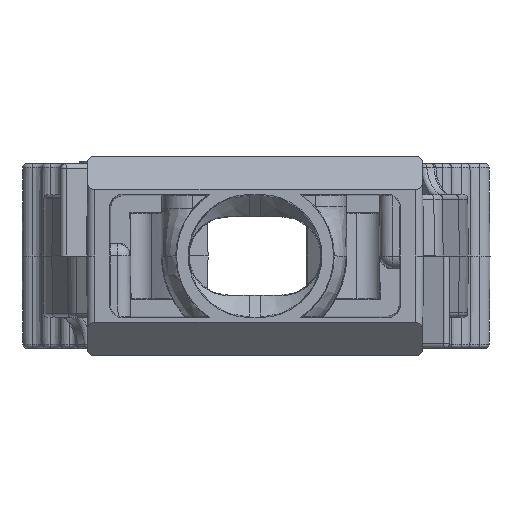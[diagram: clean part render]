
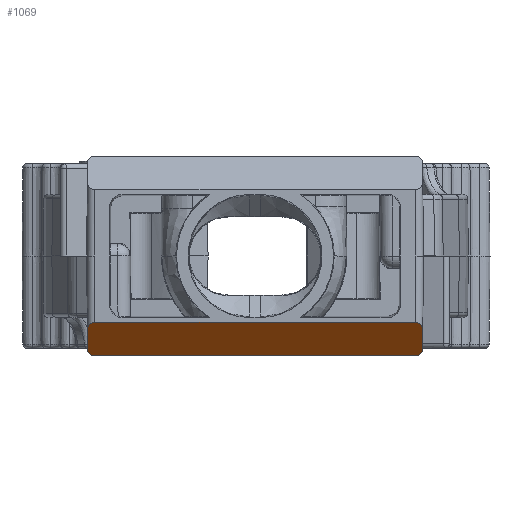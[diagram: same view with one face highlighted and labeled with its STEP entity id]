
A CAD part, front view. The second image highlights one B-rep face of the part: STEP entity #1069.
In plain terms, the highlighted planar face has unit normal (0, -0.723, -0.691).
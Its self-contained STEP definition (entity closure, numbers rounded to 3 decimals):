
#731=ELLIPSE('',#7817,0.724,0.5);
#734=ELLIPSE('',#7822,0.724,0.5);
#735=ELLIPSE('',#7823,0.691,0.5);
#736=ELLIPSE('',#7824,0.691,0.5);
#889=PLANE('',#7825);
#1069=ADVANCED_FACE('',(#1476),#889,.T.);
#1476=FACE_OUTER_BOUND('',#1881,.T.);
#1881=EDGE_LOOP('',(#3995,#3996,#3997,#3998,#3999,#4000,#4001,#4002));
#2353=LINE('',#11366,#2863);
#2486=LINE('',#12655,#2996);
#2502=LINE('',#12694,#3012);
#2510=LINE('',#12722,#3020);
#2863=VECTOR('',#8748,1.);
#2996=VECTOR('',#9158,1.);
#3012=VECTOR('',#9200,1.);
#3020=VECTOR('',#9232,1.);
#3995=ORIENTED_EDGE('',*,*,#6655,.F.);
#3996=ORIENTED_EDGE('',*,*,#6380,.F.);
#3997=ORIENTED_EDGE('',*,*,#6652,.T.);
#3998=ORIENTED_EDGE('',*,*,#6641,.T.);
#3999=ORIENTED_EDGE('',*,*,#6656,.F.);
#4000=ORIENTED_EDGE('',*,*,#6657,.T.);
#4001=ORIENTED_EDGE('',*,*,#6658,.T.);
#4002=ORIENTED_EDGE('',*,*,#6625,.F.);
#5563=VERTEX_POINT('',#11365);
#5564=VERTEX_POINT('',#11367);
#5729=VERTEX_POINT('',#12654);
#5730=VERTEX_POINT('',#12656);
#5740=VERTEX_POINT('',#12695);
#5741=VERTEX_POINT('',#12696);
#5747=VERTEX_POINT('',#12721);
#5748=VERTEX_POINT('',#12723);
#6380=EDGE_CURVE('',#5563,#5564,#2353,.T.);
#6625=EDGE_CURVE('',#5729,#5730,#2486,.T.);
#6641=EDGE_CURVE('',#5740,#5741,#2502,.T.);
#6652=EDGE_CURVE('',#5563,#5740,#731,.T.);
#6655=EDGE_CURVE('',#5564,#5729,#734,.T.);
#6656=EDGE_CURVE('',#5747,#5741,#735,.T.);
#6657=EDGE_CURVE('',#5747,#5748,#2510,.T.);
#6658=EDGE_CURVE('',#5748,#5730,#736,.T.);
#7817=AXIS2_PLACEMENT_3D('',#12714,#9218,#9219);
#7822=AXIS2_PLACEMENT_3D('',#12719,#9228,#9229);
#7823=AXIS2_PLACEMENT_3D('',#12720,#9230,#9231);
#7824=AXIS2_PLACEMENT_3D('',#12724,#9233,#9234);
#7825=AXIS2_PLACEMENT_3D('',#12725,#9235,#9236);
#8748=DIRECTION('',(1.,0.,0.));
#9158=DIRECTION('',(-0.006,0.69,-0.723));
#9200=DIRECTION('',(0.006,0.69,-0.723));
#9218=DIRECTION('',(0.,-0.723,-0.69));
#9219=DIRECTION('',(0.012,0.69,-0.723));
#9228=DIRECTION('',(0.,0.723,0.69));
#9229=DIRECTION('',(0.012,-0.69,0.723));
#9230=DIRECTION('',(0.,0.723,0.69));
#9231=DIRECTION('',(0.,-0.69,0.723));
#9232=DIRECTION('',(1.,0.,0.));
#9233=DIRECTION('',(0.,-0.723,-0.69));
#9234=DIRECTION('',(0.,-0.69,0.723));
#9235=DIRECTION('',(0.,-0.723,-0.69));
#9236=DIRECTION('',(0.,0.69,-0.723));
#11365=CARTESIAN_POINT('',(-10.412,-20.5,-4.3));
#11366=CARTESIAN_POINT('',(-10.412,-20.5,-4.3));
#11367=CARTESIAN_POINT('',(10.412,-20.5,-4.3));
#12654=CARTESIAN_POINT('',(10.908,-20.,-4.824));
#12655=CARTESIAN_POINT('',(10.908,-20.,-4.824));
#12656=CARTESIAN_POINT('',(10.898,-18.873,-6.004));
#12694=CARTESIAN_POINT('',(-10.908,-20.,-4.824));
#12695=CARTESIAN_POINT('',(-10.908,-20.,-4.824));
#12696=CARTESIAN_POINT('',(-10.898,-18.873,-6.004));
#12714=CARTESIAN_POINT('',(-10.408,-20.,-4.824));
#12719=CARTESIAN_POINT('',(10.408,-20.,-4.824));
#12720=CARTESIAN_POINT('',(-10.398,-18.877,-6.));
#12721=CARTESIAN_POINT('',(-10.398,-18.4,-6.5));
#12722=CARTESIAN_POINT('',(-10.398,-18.4,-6.5));
#12723=CARTESIAN_POINT('',(10.398,-18.4,-6.5));
#12724=CARTESIAN_POINT('',(10.398,-18.877,-6.));
#12725=CARTESIAN_POINT('',(-10.909,-20.5,-4.3));
